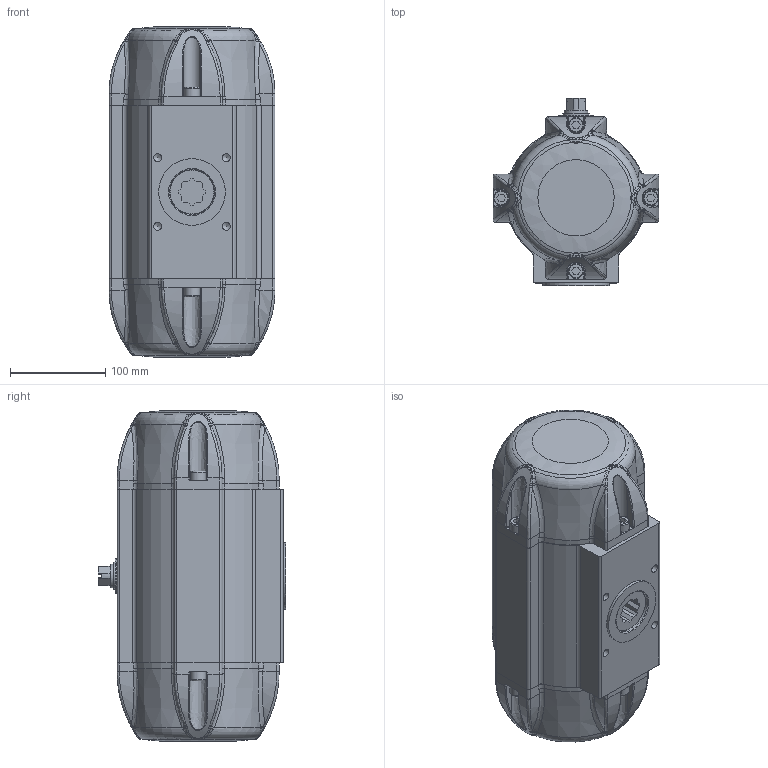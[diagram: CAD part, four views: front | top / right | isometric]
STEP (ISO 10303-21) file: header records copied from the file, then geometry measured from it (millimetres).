
FILE_DESCRIPTION((''),'2;1');
FILE_NAME('C:\Dokumente und Einstellungen\kir\Desktop\STEP IGES\SAF\SAF 30 BR03.stp','2006-12-19T11:22:27',('kir'),(''),'Autodesk Inventor 10','Autodesk Inventor 10','');
FILE_SCHEMA(('AUTOMOTIVE_DESIGN { 1 0 10303 214 1 1 1 1 }'));
Length unit declared in the file: millimetre
Products named in the file (1): ENG-039899
Bounding box: 174 x 196.8 x 346 mm (x, y, z)
Volume: 1966835 mm3; surface area: 457255.4 mm2
Topology: 34 solids, 34 shells, 1006 faces, 2422 edges, 1466 vertices
Faces by surface type: bspline 441, plane 258, cylinder 234, torus 42, cone 31
Full cylindrical faces by diameter (mm): 8.376 x4, 10 x8, 10.5 x4, 16 x8, 20 x1, 20.8 x2, 21 x1, 23.5 x1, 24.8 x3, 25.1 x2, 32 x1, 36 x2, 41.9 x2, 43 x1, 46.8 x3, 70 x1, 131 x1, 139.112 x1, 139.411 x1
Entity records: 50321 total; most frequent: CARTESIAN_POINT 30072, ORIENTED_EDGE 4310, DIRECTION 3654, EDGE_CURVE 2155, AXIS2_PLACEMENT_3D 1483, VERTEX_POINT 1391, EDGE_LOOP 1218, FACE_OUTER_BOUND 1006
